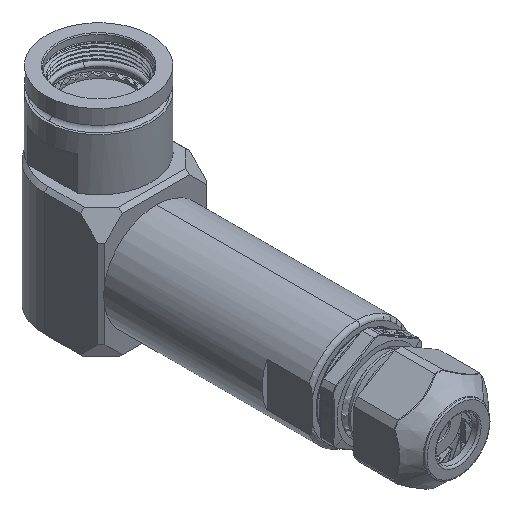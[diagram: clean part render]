
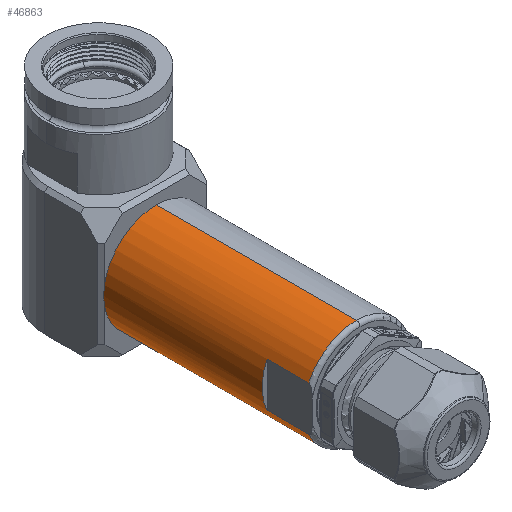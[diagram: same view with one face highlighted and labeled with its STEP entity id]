
A CAD part, isometric view. The second image highlights one B-rep face of the part: STEP entity #46863.
In plain terms, the highlighted cylindrical face has radius 14.77 mm (diameter 29.54 mm), a partial arc.
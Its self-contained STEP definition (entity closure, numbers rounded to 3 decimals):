
#703 = CARTESIAN_POINT ( 'NONE',  ( 0., -72.352, -32.055 ) ) ;
#1603 = CIRCLE ( 'NONE', #59645, 14.77 ) ;
#1727 = DIRECTION ( 'NONE',  ( 0., -1., 0. ) ) ;
#1993 = CYLINDRICAL_SURFACE ( 'NONE', #37098, 14.77 ) ;
#2645 = AXIS2_PLACEMENT_3D ( 'NONE', #39907, #44814, #17058 ) ;
#3221 = DIRECTION ( 'NONE',  ( 0., 0., 1. ) ) ;
#3401 = VERTEX_POINT ( 'NONE', #4977 ) ;
#4977 = CARTESIAN_POINT ( 'NONE',  ( 0., -16.167, -17.285 ) ) ;
#5363 = ORIENTED_EDGE ( 'NONE', *, *, #32817, .F. ) ;
#7129 = VERTEX_POINT ( 'NONE', #57615 ) ;
#7512 = FACE_OUTER_BOUND ( 'NONE', #19194, .T. ) ;
#11157 = LINE ( 'NONE', #53051, #38069 ) ;
#15069 = EDGE_CURVE ( 'NONE', #27507, #45049, #36121, .T. ) ;
#15804 = DIRECTION ( 'NONE',  ( 0., 1., 0. ) ) ;
#16287 = DIRECTION ( 'NONE',  ( 0., 1., 0. ) ) ;
#16388 = CIRCLE ( 'NONE', #2645, 14.77 ) ;
#16458 = DIRECTION ( 'NONE',  ( 0., 1., 0. ) ) ;
#16561 = ORIENTED_EDGE ( 'NONE', *, *, #22546, .F. ) ;
#17058 = DIRECTION ( 'NONE',  ( 0., 0., 1. ) ) ;
#17444 = LINE ( 'NONE', #55615, #46616 ) ;
#18583 = DIRECTION ( 'NONE',  ( 0., 0., 1. ) ) ;
#19194 = EDGE_LOOP ( 'NONE', ( #31875, #22787, #16561, #53192, #38546, #52313, #47489, #5363 ) ) ;
#20719 = VERTEX_POINT ( 'NONE', #48550 ) ;
#20737 = CARTESIAN_POINT ( 'NONE',  ( 0., -72.352, -32.055 ) ) ;
#22268 = VERTEX_POINT ( 'NONE', #38758 ) ;
#22546 = EDGE_CURVE ( 'NONE', #47457, #45049, #17444, .T. ) ;
#22621 = CARTESIAN_POINT ( 'NONE',  ( 0., -72.352, -46.825 ) ) ;
#22787 = ORIENTED_EDGE ( 'NONE', *, *, #15069, .T. ) ;
#24823 = LINE ( 'NONE', #34386, #33495 ) ;
#25002 = LINE ( 'NONE', #38604, #51713 ) ;
#25831 = CARTESIAN_POINT ( 'NONE',  ( -13.398, -72.352, -38.271 ) ) ;
#26181 = CIRCLE ( 'NONE', #41003, 14.77 ) ;
#27507 = VERTEX_POINT ( 'NONE', #22621 ) ;
#27592 = DIRECTION ( 'NONE',  ( 0., -1., 0. ) ) ;
#29418 = EDGE_CURVE ( 'NONE', #7129, #41673, #24823, .T. ) ;
#29706 = DIRECTION ( 'NONE',  ( 0., 0., 1. ) ) ;
#31875 = ORIENTED_EDGE ( 'NONE', *, *, #44210, .F. ) ;
#32817 = EDGE_CURVE ( 'NONE', #22268, #3401, #26181, .T. ) ;
#33001 = EDGE_CURVE ( 'NONE', #41673, #20719, #1603, .T. ) ;
#33058 = EDGE_CURVE ( 'NONE', #20719, #3401, #11157, .T. ) ;
#33495 = VECTOR ( 'NONE', #1727, 1000. ) ;
#34386 = CARTESIAN_POINT ( 'NONE',  ( -13.398, -60.668, -25.839 ) ) ;
#35798 = CARTESIAN_POINT ( 'NONE',  ( -13.398, -60.668, -38.271 ) ) ;
#36121 = CIRCLE ( 'NONE', #49860, 14.77 ) ;
#37098 = AXIS2_PLACEMENT_3D ( 'NONE', #44221, #16458, #3221 ) ;
#38069 = VECTOR ( 'NONE', #48442, 1000. ) ;
#38546 = ORIENTED_EDGE ( 'NONE', *, *, #29418, .T. ) ;
#38604 = CARTESIAN_POINT ( 'NONE',  ( 0., -16.167, -46.825 ) ) ;
#38758 = CARTESIAN_POINT ( 'NONE',  ( 0., -16.167, -46.825 ) ) ;
#38906 = DIRECTION ( 'NONE',  ( 0., 1., 0. ) ) ;
#39907 = CARTESIAN_POINT ( 'NONE',  ( 0., -60.668, -32.055 ) ) ;
#41003 = AXIS2_PLACEMENT_3D ( 'NONE', #53580, #16287, #53276 ) ;
#41673 = VERTEX_POINT ( 'NONE', #45369 ) ;
#44210 = EDGE_CURVE ( 'NONE', #27507, #22268, #25002, .T. ) ;
#44221 = CARTESIAN_POINT ( 'NONE',  ( 0., -16.167, -32.055 ) ) ;
#44814 = DIRECTION ( 'NONE',  ( 0., -1., 0. ) ) ;
#45049 = VERTEX_POINT ( 'NONE', #25831 ) ;
#45369 = CARTESIAN_POINT ( 'NONE',  ( -13.398, -72.352, -25.839 ) ) ;
#46616 = VECTOR ( 'NONE', #27592, 1000. ) ;
#46833 = EDGE_CURVE ( 'NONE', #7129, #47457, #16388, .T. ) ;
#46863 = ADVANCED_FACE ( 'NONE', ( #7512 ), #1993, .T. ) ;
#47457 = VERTEX_POINT ( 'NONE', #35798 ) ;
#47489 = ORIENTED_EDGE ( 'NONE', *, *, #33058, .T. ) ;
#48442 = DIRECTION ( 'NONE',  ( 0., 1., 0. ) ) ;
#48550 = CARTESIAN_POINT ( 'NONE',  ( 0., -72.352, -17.285 ) ) ;
#49860 = AXIS2_PLACEMENT_3D ( 'NONE', #20737, #15804, #29706 ) ;
#51713 = VECTOR ( 'NONE', #38906, 1000. ) ;
#52313 = ORIENTED_EDGE ( 'NONE', *, *, #33001, .T. ) ;
#53051 = CARTESIAN_POINT ( 'NONE',  ( 0., -16.167, -17.285 ) ) ;
#53192 = ORIENTED_EDGE ( 'NONE', *, *, #46833, .F. ) ;
#53276 = DIRECTION ( 'NONE',  ( 0., 0., 1. ) ) ;
#53580 = CARTESIAN_POINT ( 'NONE',  ( 0., -16.167, -32.055 ) ) ;
#55615 = CARTESIAN_POINT ( 'NONE',  ( -13.398, -60.668, -38.271 ) ) ;
#57615 = CARTESIAN_POINT ( 'NONE',  ( -13.398, -60.668, -25.839 ) ) ;
#59645 = AXIS2_PLACEMENT_3D ( 'NONE', #703, #60770, #18583 ) ;
#60770 = DIRECTION ( 'NONE',  ( 0., 1., 0. ) ) ;
